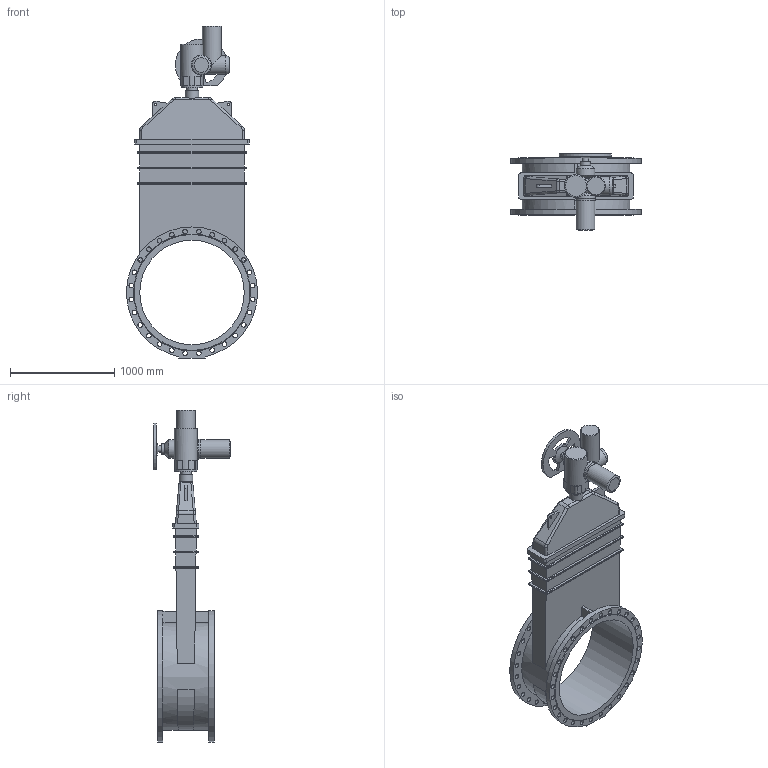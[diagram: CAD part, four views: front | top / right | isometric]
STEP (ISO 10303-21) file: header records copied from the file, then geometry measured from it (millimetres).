
FILE_DESCRIPTION(('STEP AP203'), '1');
FILE_NAME('青溻桄赅 47GVA DN1000 PN16+MT903.A100', '', ('UNSPECIFIED'), ('UNSPECIFIED'), 'ASCON STEP Converter 1.6', 'ASCON Math Kernel', '');
FILE_SCHEMA(('CONFIG_CONTROL_DESIGN'));
Length unit declared in the file: millimetre
Bounding box: 1254.88 x 733 x 3178.5 mm (x, y, z)
Volume: 370336836.5 mm3; surface area: 10713210.4 mm2
Topology: 2 solids, 2 shells, 345 faces, 859 edges, 548 vertices
Faces by surface type: cylinder 168, plane 133, bspline 32, cone 11, torus 1
Full cylindrical faces by diameter (mm): 17.5 x4, 22 x4, 25 x2, 44 x56, 50 x1, 60 x1, 100 x2, 130 x3, 140 x1, 180 x4, 187 x1, 191 x1, 210 x1, 220 x1, 1000 x1
Entity records: 16437 total; most frequent: CARTESIAN_POINT 5653, DIRECTION 1594, ORIENTED_EDGE 1528, EDGE_CURVE 764, AXIS2_PLACEMENT_3D 623, EDGE_LOOP 601, VERTEX_POINT 547, FACE_BOUND 423
